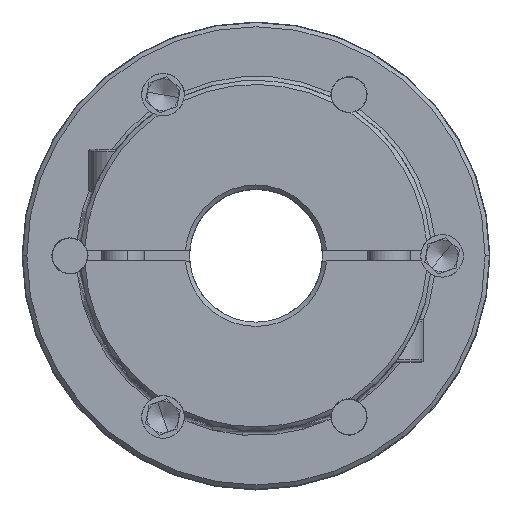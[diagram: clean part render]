
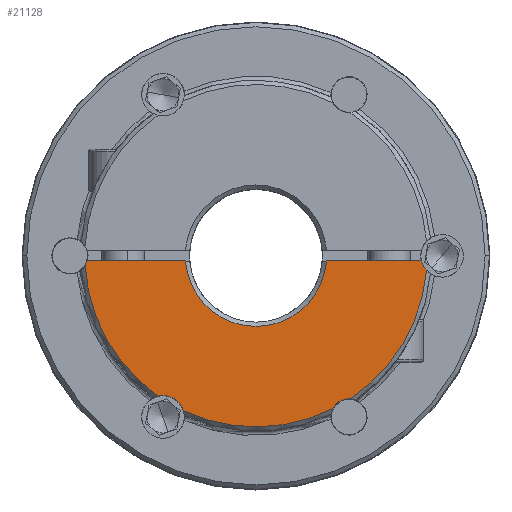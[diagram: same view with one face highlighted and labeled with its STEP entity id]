
A CAD part, top view. The second image highlights one B-rep face of the part: STEP entity #21128.
In plain terms, the highlighted planar face has unit normal (0, 0, 1).
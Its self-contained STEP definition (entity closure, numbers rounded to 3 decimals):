
#14 = CIRCLE ( 'NONE', #18563, 32.2 ) ;
#62 = EDGE_CURVE ( 'NONE', #15603, #10292, #20315, .T. ) ;
#420 = DIRECTION ( 'NONE',  ( -1., 0., 0. ) ) ;
#455 = EDGE_CURVE ( 'NONE', #12871, #2454, #3175, .T. ) ;
#661 = CARTESIAN_POINT ( 'NONE',  ( -31.75, -1., 34.15 ) ) ;
#839 = AXIS2_PLACEMENT_3D ( 'NONE', #4319, #19992, #14747 ) ;
#1142 = ORIENTED_EDGE ( 'NONE', *, *, #4101, .T. ) ;
#1561 = EDGE_CURVE ( 'NONE', #2454, #6147, #11728, .T. ) ;
#1790 = CARTESIAN_POINT ( 'NONE',  ( -44., -1., 34.15 ) ) ;
#2454 = VERTEX_POINT ( 'NONE', #16141 ) ;
#2480 = CARTESIAN_POINT ( 'NONE',  ( -13.671, -29.154, 34.15 ) ) ;
#2489 = CARTESIAN_POINT ( 'NONE',  ( 31.127, -1., 34.15 ) ) ;
#2805 = AXIS2_PLACEMENT_3D ( 'NONE', #11730, #18701, #3127 ) ;
#2861 = CARTESIAN_POINT ( 'NONE',  ( 0., 0., 34.15 ) ) ;
#3127 = DIRECTION ( 'NONE',  ( 1., 0., 0. ) ) ;
#3175 = CIRCLE ( 'NONE', #2805, 32.2 ) ;
#3211 = CIRCLE ( 'NONE', #15880, 3.4 ) ;
#3277 = CARTESIAN_POINT ( 'NONE',  ( 17.5, -30.311, 34.15 ) ) ;
#3765 = VECTOR ( 'NONE', #6820, 1000. ) ;
#4101 = EDGE_CURVE ( 'NONE', #4724, #19843, #20044, .T. ) ;
#4217 = ORIENTED_EDGE ( 'NONE', *, *, #8128, .F. ) ;
#4271 = FACE_OUTER_BOUND ( 'NONE', #19330, .T. ) ;
#4319 = CARTESIAN_POINT ( 'NONE',  ( -17.5, -30.311, 34.15 ) ) ;
#4593 = CARTESIAN_POINT ( 'NONE',  ( 0., 0., 34.15 ) ) ;
#4719 = DIRECTION ( 'NONE',  ( 0., 0., 1. ) ) ;
#4724 = VERTEX_POINT ( 'NONE', #6632 ) ;
#4730 = DIRECTION ( 'NONE',  ( 1., 0., 0. ) ) ;
#4759 = VERTEX_POINT ( 'NONE', #5923 ) ;
#5499 = CARTESIAN_POINT ( 'NONE',  ( 0., 0., 34.15 ) ) ;
#5577 = AXIS2_PLACEMENT_3D ( 'NONE', #17228, #20771, #20891 ) ;
#5923 = CARTESIAN_POINT ( 'NONE',  ( 14.472, -28.765, 34.15 ) ) ;
#6147 = VERTEX_POINT ( 'NONE', #2480 ) ;
#6289 = DIRECTION ( 'NONE',  ( 0., 0., 1. ) ) ;
#6632 = CARTESIAN_POINT ( 'NONE',  ( 32.083, -2.737, 34.15 ) ) ;
#6820 = DIRECTION ( 'NONE',  ( 1., 0., 0. ) ) ;
#6904 = EDGE_CURVE ( 'NONE', #6147, #4759, #9713, .T. ) ;
#7320 = EDGE_CURVE ( 'NONE', #4759, #11524, #3211, .T. ) ;
#8093 = ORIENTED_EDGE ( 'NONE', *, *, #6904, .T. ) ;
#8128 = EDGE_CURVE ( 'NONE', #20962, #19843, #10091, .T. ) ;
#8262 = DIRECTION ( 'NONE',  ( -1., 0., 0. ) ) ;
#9269 = DIRECTION ( 'NONE',  ( 1., 0., 0. ) ) ;
#9713 = CIRCLE ( 'NONE', #11506, 32.2 ) ;
#10091 = LINE ( 'NONE', #1790, #3765 ) ;
#10292 = VERTEX_POINT ( 'NONE', #18595 ) ;
#10374 = EDGE_CURVE ( 'NONE', #20962, #10292, #21124, .T. ) ;
#10504 = EDGE_CURVE ( 'NONE', #11524, #4724, #14, .T. ) ;
#11506 = AXIS2_PLACEMENT_3D ( 'NONE', #13790, #4719, #17326 ) ;
#11524 = VERTEX_POINT ( 'NONE', #19412 ) ;
#11728 = CIRCLE ( 'NONE', #839, 4. ) ;
#11730 = CARTESIAN_POINT ( 'NONE',  ( 0., 0., 34.15 ) ) ;
#12214 = DIRECTION ( 'NONE',  ( 1., 0., 0. ) ) ;
#12227 = CARTESIAN_POINT ( 'NONE',  ( 13.262, -1., 34.15 ) ) ;
#12417 = DIRECTION ( 'NONE',  ( 0., 0., -1. ) ) ;
#12695 = ORIENTED_EDGE ( 'NONE', *, *, #15073, .T. ) ;
#12871 = VERTEX_POINT ( 'NONE', #16804 ) ;
#13102 = PLANE ( 'NONE',  #22495 ) ;
#13790 = CARTESIAN_POINT ( 'NONE',  ( 0., 0., 34.15 ) ) ;
#14529 = CARTESIAN_POINT ( 'NONE',  ( -44., -1., 34.15 ) ) ;
#14747 = DIRECTION ( 'NONE',  ( 0.5, 0.866, 0. ) ) ;
#15073 = EDGE_CURVE ( 'NONE', #15603, #12871, #16819, .T. ) ;
#15529 = ORIENTED_EDGE ( 'NONE', *, *, #62, .F. ) ;
#15603 = VERTEX_POINT ( 'NONE', #661 ) ;
#15694 = AXIS2_PLACEMENT_3D ( 'NONE', #19325, #15997, #420 ) ;
#15880 = AXIS2_PLACEMENT_3D ( 'NONE', #3277, #20428, #8262 ) ;
#15997 = DIRECTION ( 'NONE',  ( 0., 0., -1. ) ) ;
#16141 = CARTESIAN_POINT ( 'NONE',  ( -18.412, -26.416, 34.15 ) ) ;
#16594 = DIRECTION ( 'NONE',  ( 1., 0., 0. ) ) ;
#16725 = ORIENTED_EDGE ( 'NONE', *, *, #1561, .T. ) ;
#16751 = ORIENTED_EDGE ( 'NONE', *, *, #7320, .T. ) ;
#16804 = CARTESIAN_POINT ( 'NONE',  ( -32.147, -1.849, 34.15 ) ) ;
#16819 = CIRCLE ( 'NONE', #5577, 3.4 ) ;
#17228 = CARTESIAN_POINT ( 'NONE',  ( -35., 0., 34.15 ) ) ;
#17326 = DIRECTION ( 'NONE',  ( 1., 0., 0. ) ) ;
#17830 = AXIS2_PLACEMENT_3D ( 'NONE', #5499, #12417, #12214 ) ;
#17881 = DIRECTION ( 'NONE',  ( 0., 0., 1. ) ) ;
#18563 = AXIS2_PLACEMENT_3D ( 'NONE', #2861, #17881, #16594 ) ;
#18595 = CARTESIAN_POINT ( 'NONE',  ( -13.262, -1., 34.15 ) ) ;
#18701 = DIRECTION ( 'NONE',  ( 0., 0., 1. ) ) ;
#19325 = CARTESIAN_POINT ( 'NONE',  ( 35., 0., 34.15 ) ) ;
#19330 = EDGE_LOOP ( 'NONE', ( #15529, #12695, #20734, #16725, #8093, #16751, #20055, #1142, #4217, #20533 ) ) ;
#19412 = CARTESIAN_POINT ( 'NONE',  ( 17.675, -26.915, 34.15 ) ) ;
#19821 = VECTOR ( 'NONE', #4730, 1000. ) ;
#19843 = VERTEX_POINT ( 'NONE', #2489 ) ;
#19992 = DIRECTION ( 'NONE',  ( 0., 0., -1. ) ) ;
#20044 = CIRCLE ( 'NONE', #15694, 4. ) ;
#20055 = ORIENTED_EDGE ( 'NONE', *, *, #10504, .T. ) ;
#20315 = LINE ( 'NONE', #14529, #19821 ) ;
#20428 = DIRECTION ( 'NONE',  ( 0., 0., -1. ) ) ;
#20533 = ORIENTED_EDGE ( 'NONE', *, *, #10374, .T. ) ;
#20734 = ORIENTED_EDGE ( 'NONE', *, *, #455, .T. ) ;
#20771 = DIRECTION ( 'NONE',  ( 0., 0., -1. ) ) ;
#20891 = DIRECTION ( 'NONE',  ( -1., 0., 0. ) ) ;
#20962 = VERTEX_POINT ( 'NONE', #12227 ) ;
#21124 = CIRCLE ( 'NONE', #17830, 13.3 ) ;
#21128 = ADVANCED_FACE ( 'NONE', ( #4271 ), #13102, .T. ) ;
#22495 = AXIS2_PLACEMENT_3D ( 'NONE', #4593, #6289, #9269 ) ;
